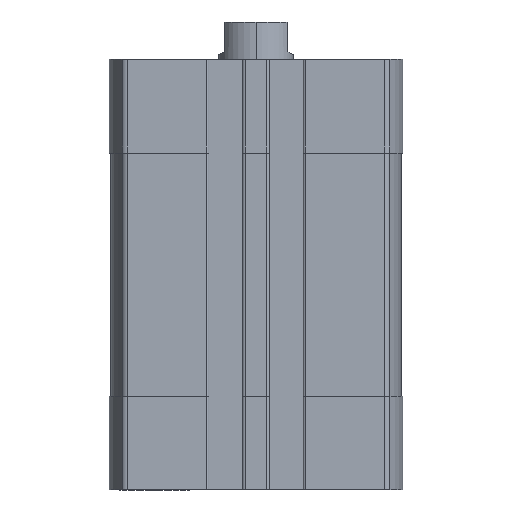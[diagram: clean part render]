
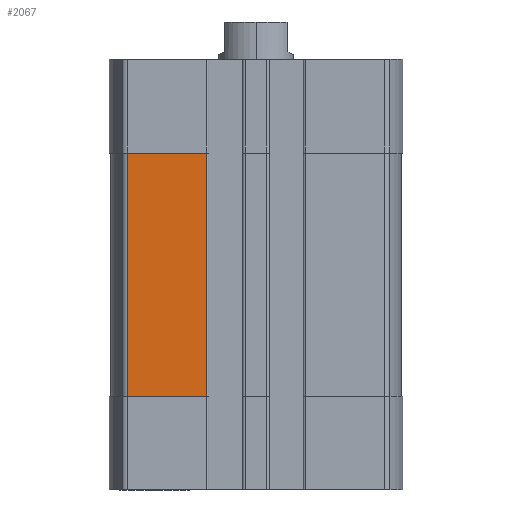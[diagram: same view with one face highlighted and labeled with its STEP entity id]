
A CAD part, left-side view. The second image highlights one B-rep face of the part: STEP entity #2067.
In plain terms, the highlighted planar face has unit normal (-1, 0, 0).
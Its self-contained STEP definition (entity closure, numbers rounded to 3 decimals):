
#41 = CARTESIAN_POINT ( 'NONE',  ( -23.25, 7.95, -54. ) ) ;
#1171 = PLANE ( 'NONE',  #5588 ) ;
#1218 = DIRECTION ( 'NONE',  ( -1., 0., 0. ) ) ;
#2067 = ADVANCED_FACE ( 'NONE', ( #11156 ), #1171, .T. ) ;
#2796 = LINE ( 'NONE', #3404, #14842 ) ;
#3184 = EDGE_CURVE ( 'NONE', #12890, #7784, #5651, .T. ) ;
#3404 = CARTESIAN_POINT ( 'NONE',  ( -23.25, 20.543, -54. ) ) ;
#4171 = CARTESIAN_POINT ( 'NONE',  ( -23.25, 7.95, -54. ) ) ;
#4741 = EDGE_CURVE ( 'NONE', #4967, #12890, #15250, .T. ) ;
#4967 = VERTEX_POINT ( 'NONE', #10832 ) ;
#5588 = AXIS2_PLACEMENT_3D ( 'NONE', #13232, #1218, #9635 ) ;
#5620 = CARTESIAN_POINT ( 'NONE',  ( -23.25, 20.543, -54. ) ) ;
#5625 = EDGE_LOOP ( 'NONE', ( #7720, #6288, #13172, #11286 ) ) ;
#5651 = LINE ( 'NONE', #11529, #12067 ) ;
#5744 = EDGE_CURVE ( 'NONE', #7784, #12085, #2796, .T. ) ;
#5804 = CARTESIAN_POINT ( 'NONE',  ( -23.25, 20.543, -15. ) ) ;
#6288 = ORIENTED_EDGE ( 'NONE', *, *, #12388, .F. ) ;
#6747 = DIRECTION ( 'NONE',  ( 0., 0., -1. ) ) ;
#7720 = ORIENTED_EDGE ( 'NONE', *, *, #5744, .T. ) ;
#7784 = VERTEX_POINT ( 'NONE', #5620 ) ;
#7901 = VECTOR ( 'NONE', #9636, 1000. ) ;
#9635 = DIRECTION ( 'NONE',  ( 0., 0., 1. ) ) ;
#9636 = DIRECTION ( 'NONE',  ( 0., 0., -1. ) ) ;
#10344 = DIRECTION ( 'NONE',  ( 0., 1., 0. ) ) ;
#10752 = LINE ( 'NONE', #41, #7901 ) ;
#10832 = CARTESIAN_POINT ( 'NONE',  ( -23.25, 7.95, -15. ) ) ;
#11156 = FACE_OUTER_BOUND ( 'NONE', #5625, .T. ) ;
#11286 = ORIENTED_EDGE ( 'NONE', *, *, #3184, .T. ) ;
#11529 = CARTESIAN_POINT ( 'NONE',  ( -23.25, 20.543, -54. ) ) ;
#12067 = VECTOR ( 'NONE', #6747, 1000. ) ;
#12073 = VECTOR ( 'NONE', #10344, 1000. ) ;
#12085 = VERTEX_POINT ( 'NONE', #4171 ) ;
#12388 = EDGE_CURVE ( 'NONE', #4967, #12085, #10752, .T. ) ;
#12890 = VERTEX_POINT ( 'NONE', #5804 ) ;
#13038 = DIRECTION ( 'NONE',  ( 0., -1., 0. ) ) ;
#13172 = ORIENTED_EDGE ( 'NONE', *, *, #4741, .T. ) ;
#13232 = CARTESIAN_POINT ( 'NONE',  ( -23.25, 20.543, -54. ) ) ;
#14842 = VECTOR ( 'NONE', #13038, 1000. ) ;
#15136 = CARTESIAN_POINT ( 'NONE',  ( -23.25, 0., -15. ) ) ;
#15250 = LINE ( 'NONE', #15136, #12073 ) ;
